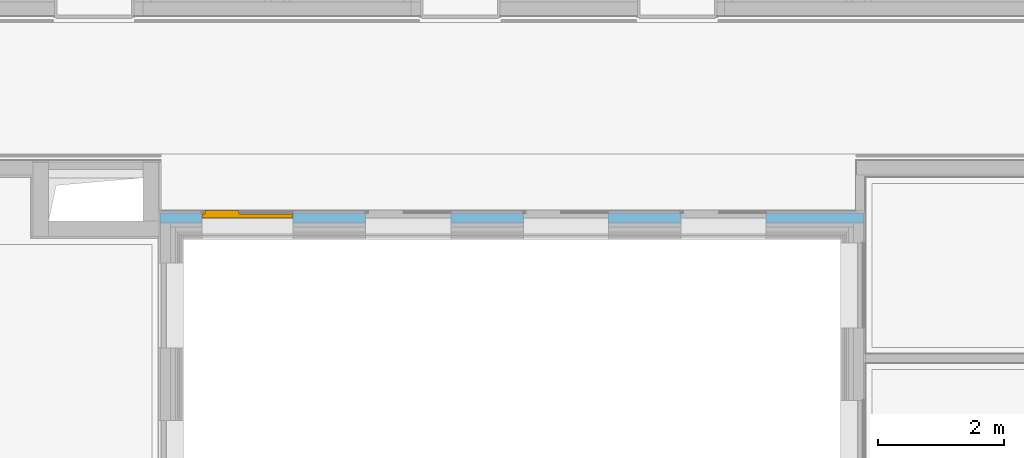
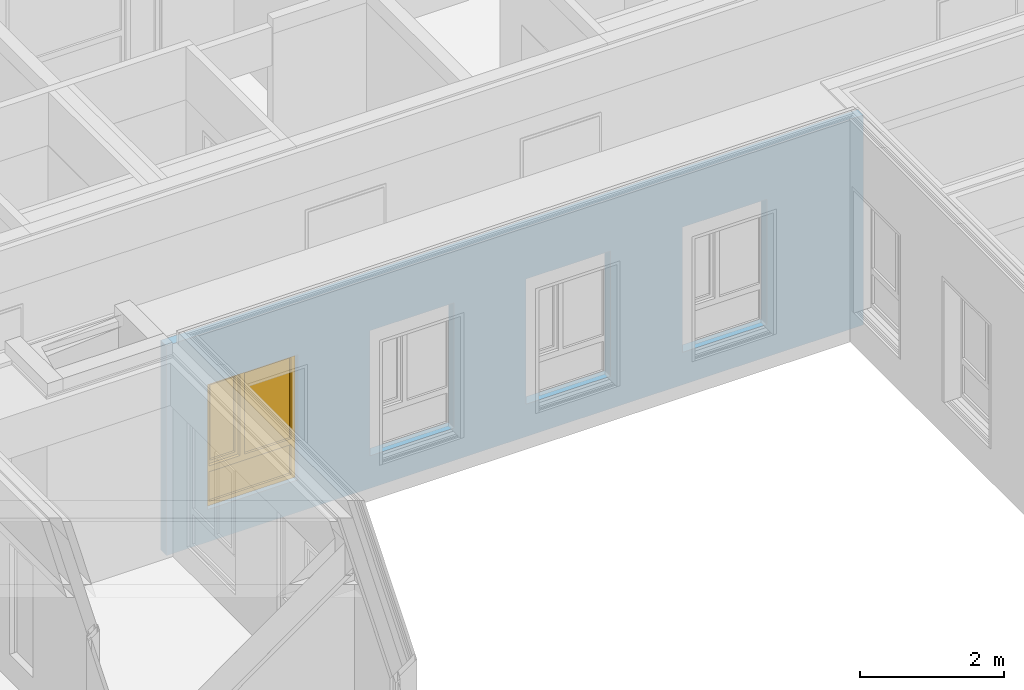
# One storey, part 130 of 222: 1 window, 4 openings, plus 1 element that does not belong to this part.
"""IFC4 building model written with IfcOpenShell, lengths in metres."""

from ifc_helpers import new_model, entity, si_unit, converted_unit, derived_unit, frame, origin, origin_with_axes, place, context, subcontext, project, spatial, polyline, outline, extrude, closed_shell, open_shell, surface_model, source, transform, mapped, material, element, fill, save


model = new_model("IFC4")

# Units and contexts
model_context = context("Model", 3, precision=1e-05, world=origin())
body_context = subcontext(model_context, "Body", "Model", "MODEL_VIEW")
ifc_project = project(units=[si_unit("LENGTHUNIT", "METRE"), si_unit("AREAUNIT", "SQUARE_METRE"), si_unit("VOLUMEUNIT", "CUBIC_METRE"), si_unit("MASSUNIT", "GRAM", prefix="KILO"), converted_unit("PLANEANGLEUNIT", "DEGREE", entity("IfcPlaneAngleMeasure", 0.0174532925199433), si_unit("PLANEANGLEUNIT", "RADIAN"), dimensions=[0, 0, 0, 0, 0, 0, 0]), derived_unit("THERMALTRANSMITTANCEUNIT", [(si_unit("POWERUNIT", "WATT"), 1), (si_unit("THERMODYNAMICTEMPERATUREUNIT", "KELVIN"), -1), (si_unit("LENGTHUNIT", "METRE"), -2)]), derived_unit("VOLUMETRICFLOWRATEUNIT", [(si_unit("LENGTHUNIT", "METRE"), 3), (converted_unit("TIMEUNIT", "hour", entity("IfcTimeMeasure", 3600.0), si_unit("TIMEUNIT", "SECOND"), dimensions=[0, 0, 1, 0, 0, 0, 0]), -1), (si_unit("LENGTHUNIT", "METRE"), -1)])], contexts=[model_context])

# Site, building, storey
site_placement = place(None, origin())
site = spatial("IfcSite", under=ifc_project, at=site_placement, Name="Psychiatrie Neubau Wunstorf", CompositionType="ELEMENT")
building_placement = place(site_placement, origin())
building = spatial("IfcBuilding", under=site, at=building_placement, Name="Neubau H2 Stationsgebäude", CompositionType="ELEMENT")
storey_placement = place(building_placement, frame((0.0, 0.0, 3.6)))
storey = spatial("IfcBuildingStorey", under=building, at=storey_placement, Name="H2 Ebene +1", CompositionType="ELEMENT", Elevation=3.6)

# Wall, openings, window
ifc_material = material(Name="WA-DL")
wall_placement = place(storey_placement, frame((90.325, 22.000006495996, 0.0), z_axis=(0.0, 0.0, 1.0), x_axis=(-0.999999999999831, -5.80725547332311e-07, 0.0)))
wall = element("IfcWall", 1, at=wall_placement, inside=storey, material=ifc_material, context=body_context, shape_type="SweptSolid", body=[
    extrude(outline(polyline([(-11.150000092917, -0.159998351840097), (-9.29151304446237e-08, -0.159998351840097), (0.0, 0.0), (-11.1499999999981, 6.47508983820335e-06), (-11.150000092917, -0.159998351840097)])), frame((11.150000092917, 0.159998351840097, 0.0), z_axis=(0.0, 0.0, 1.0), x_axis=(1.0, 0.0, 0.0)), (0.0, 0.0, 1.0), 3.55),
])
opening_1_placement = place(wall_placement, frame((7.89530009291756, 0.160000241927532, 0.55), z_axis=(-5.80725546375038e-07, -0.999999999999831, 0.0), x_axis=(0.0, 0.0, 1.0)))
element("IfcOpeningElement", 2, at=opening_1_placement, cuts=wall, Name="Fensteröffnung", ObjectType="Opening", context=body_context, shape_type="SweptSolid", body=[
    extrude(outline(polyline([(2.115, 1.35), (2.115, 0.0), (0.0, 0.0), (0.0, 1.35), (2.115, 1.35)])), origin_with_axes(), (0.0, 0.0, 1.0), 0.160000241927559),
])
opening_2_placement = place(wall_placement, frame((5.39530009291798, 0.160001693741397, 0.55), z_axis=(-5.80725546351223e-07, -0.999999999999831, 0.0), x_axis=(0.0, 0.0, 1.0)))
element("IfcOpeningElement", 3, at=opening_2_placement, cuts=wall, Name="Fensteröffnung", ObjectType="Opening", context=body_context, shape_type="SweptSolid", body=[
    extrude(outline(polyline([(2.115, 1.3500003), (2.115, 0.0), (0.0, 0.0), (0.0, 1.3500003), (2.115, 1.3500003)])), origin_with_axes(), (0.0, 0.0, 1.0), 0.160001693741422),
])
opening_3_placement = place(wall_placement, frame((2.89529979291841, 0.160003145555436, 0.55), z_axis=(-5.80725549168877e-07, -0.999999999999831, 0.0), x_axis=(0.0, 0.0, 1.0)))
element("IfcOpeningElement", 4, at=opening_3_placement, cuts=wall, Name="Fensteröffnung", ObjectType="Opening", context=body_context, shape_type="SweptSolid", body=[
    extrude(outline(polyline([(2.115, 1.3500003), (2.115, 0.0), (0.0, 0.0), (0.0, 1.3500003), (2.115, 1.3500003)])), origin_with_axes(), (0.0, 0.0, 1.0), 0.160003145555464),
])
opening_4_placement = place(wall_placement, frame((10.4953000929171, 0.159998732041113, 0.55), z_axis=(-5.80725541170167e-07, -0.999999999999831, 0.0), x_axis=(0.0, 0.0, 1.0)))
opening_4 = element("IfcOpeningElement", 5, at=opening_4_placement, cuts=wall, Name="Fensteröffnung", ObjectType="Opening", context=body_context, shape_type="SweptSolid", body=[
    extrude(outline(polyline([(2.115, 1.45), (2.115, 0.0), (0.0, 0.0), (0.0, 1.45), (2.115, 1.45)])), origin_with_axes(), (0.0, 0.0, 1.0), 0.159998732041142),
])
shared_shape = source(origin_with_axes(), body_context, "Body", "SurfaceModel", [
    surface_model("IfcShellBasedSurfaceModel", [(1.45000023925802, -4.3034327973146e-08, 2.115), (1.45000023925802, -4.3034327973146e-08, 0.0), (1.38000023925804, -8.3685117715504e-08, 0.0), (1.38000023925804, -8.3685117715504e-08, 2.115), (1.45000019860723, 0.0699999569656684, 0.0), (1.45000019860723, 0.0699999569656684, 2.115), (1.38000019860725, 0.0699999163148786, 2.115), (1.38000019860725, 0.0699999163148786, 0.0)], [closed_shell([[[0, 1, 2, 3]], [[4, 5, 6, 7]], [[1, 0, 5, 4]], [[2, 1, 4, 7]], [[3, 2, 7, 6]], [[0, 3, 6, 5]]], orient=[[False], [False], [False], [False], [False], [False]])]),
    surface_model("IfcShellBasedSurfaceModel", [(0.069999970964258, -8.44435737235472e-07, 2.115), (0.069999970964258, -8.44435737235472e-07, 0.0), (-2.90357274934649e-08, -8.8508652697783e-07, 0.0), (-2.90357274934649e-08, -8.8508652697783e-07, 2.115), (0.0699999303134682, 0.0699991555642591, 0.0), (0.0699999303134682, 0.0699991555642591, 2.115), (-6.9686517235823e-08, 0.0699991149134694, 2.115), (-6.9686517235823e-08, 0.0699991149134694, 0.0)], [closed_shell([[[0, 1, 2, 3]], [[4, 5, 6, 7]], [[1, 0, 5, 4]], [[2, 1, 4, 7]], [[3, 2, 7, 6]], [[0, 3, 6, 5]]], orient=[[False], [False], [False], [False], [False], [False]])]),
    surface_model("IfcShellBasedSurfaceModel", [(1.38000023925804, -8.3685117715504e-08, 0.07), (1.38000023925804, -8.3685117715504e-08, 0.0), (0.069999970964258, -8.44435737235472e-07, 0.0), (0.069999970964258, -8.44435737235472e-07, 0.07), (1.38000019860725, 0.0699999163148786, 0.0), (1.38000019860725, 0.0699999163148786, 0.07), (0.0699999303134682, 0.0699991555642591, 0.07), (0.0699999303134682, 0.0699991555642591, 0.0)], [closed_shell([[[0, 1, 2, 3]], [[4, 5, 6, 7]], [[1, 0, 5, 4]], [[2, 1, 4, 7]], [[3, 2, 7, 6]], [[0, 3, 6, 5]]], orient=[[False], [False], [False], [False], [False], [False]])]),
    surface_model("IfcShellBasedSurfaceModel", [(1.38000023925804, -8.3685117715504e-08, 2.115), (1.38000023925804, -8.3685117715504e-08, 2.045), (0.069999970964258, -8.44435737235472e-07, 2.045), (0.069999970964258, -8.44435737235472e-07, 2.115), (1.38000019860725, 0.0699999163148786, 2.045), (1.38000019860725, 0.0699999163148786, 2.115), (0.0699999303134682, 0.0699991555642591, 2.115), (0.0699999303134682, 0.0699991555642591, 2.045)], [closed_shell([[[0, 1, 2, 3]], [[4, 5, 6, 7]], [[1, 0, 5, 4]], [[2, 1, 4, 7]], [[3, 2, 7, 6]], [[0, 3, 6, 5]]], orient=[[False], [False], [False], [False], [False], [False]])]),
    surface_model("IfcShellBasedSurfaceModel", [(1.38000023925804, -8.3685117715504e-08, 0.67), (1.38000023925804, -8.3685117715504e-08, 0.57), (0.069999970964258, -8.44435737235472e-07, 0.57), (0.069999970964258, -8.44435737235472e-07, 0.67), (1.38000019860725, 0.0699999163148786, 0.57), (1.38000019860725, 0.0699999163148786, 0.67), (0.0699999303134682, 0.0699991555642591, 0.67), (0.0699999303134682, 0.0699991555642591, 0.57)], [closed_shell([[[0, 1, 2, 3]], [[4, 5, 6, 7]], [[1, 0, 5, 4]], [[2, 1, 4, 7]], [[3, 2, 7, 6]], [[0, 3, 6, 5]]], orient=[[False], [False], [False], [False], [False], [False]])]),
    surface_model("IfcShellBasedSurfaceModel", [(1.38000021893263, 0.0349999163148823, 0.07), (0.0699999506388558, 0.0349991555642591, 0.07), (0.0699999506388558, 0.0349991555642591, 0.57), (1.38000021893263, 0.0349999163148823, 0.57)], [open_shell([[[0, 1, 2, 3]]], orient=[[False]])]),
    surface_model("IfcShellBasedSurfaceModel", [(0.884300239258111, -3.71550770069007e-07, 2.045), (0.884300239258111, -3.71550770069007e-07, 0.67), (0.814300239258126, -4.12201559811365e-07, 0.67), (0.814300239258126, -4.12201559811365e-07, 2.045), (0.884300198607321, 0.0699996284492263, 0.67), (0.884300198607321, 0.0699996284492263, 2.045), (0.814300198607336, 0.0699995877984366, 2.045), (0.814300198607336, 0.0699995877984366, 0.67)], [closed_shell([[[0, 1, 2, 3]], [[4, 5, 6, 7]], [[1, 0, 5, 4]], [[2, 1, 4, 7]], [[3, 2, 7, 6]], [[0, 3, 6, 5]]], orient=[[False], [False], [False], [False], [False], [False]])]),
    surface_model("IfcShellBasedSurfaceModel", [(1.4000002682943, -0.0500000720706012, 2.065), (1.4000002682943, -0.0500000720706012, 0.65), (1.33000026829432, -0.0500001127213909, 0.65), (1.33000026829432, -0.0500001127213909, 2.065), (1.40000022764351, 0.0199999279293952, 0.65), (1.40000022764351, 0.0199999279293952, 2.065), (1.33000022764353, 0.0199998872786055, 2.065), (1.33000022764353, 0.0199998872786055, 0.65)], [closed_shell([[[0, 1, 2, 3]], [[4, 5, 6, 7]], [[1, 0, 5, 4]], [[2, 1, 4, 7]], [[3, 2, 7, 6]], [[0, 3, 6, 5]]], orient=[[False], [False], [False], [False], [False], [False]])]),
    surface_model("IfcShellBasedSurfaceModel", [(0.934300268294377, -0.0500003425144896, 2.065), (0.934300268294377, -0.0500003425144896, 0.65), (0.864300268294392, -0.0500003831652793, 0.65), (0.864300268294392, -0.0500003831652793, 2.065), (0.934300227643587, 0.0199996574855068, 0.65), (0.934300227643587, 0.0199996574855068, 2.065), (0.864300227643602, 0.019999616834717, 2.065), (0.864300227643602, 0.019999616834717, 0.65)], [closed_shell([[[0, 1, 2, 3]], [[4, 5, 6, 7]], [[1, 0, 5, 4]], [[2, 1, 4, 7]], [[3, 2, 7, 6]], [[0, 3, 6, 5]]], orient=[[False], [False], [False], [False], [False], [False]])]),
    surface_model("IfcShellBasedSurfaceModel", [(1.33000026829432, -0.0500001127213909, 0.72), (1.33000026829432, -0.0500001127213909, 0.65), (0.934300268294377, -0.0500003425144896, 0.65), (0.934300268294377, -0.0500003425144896, 0.72), (1.33000022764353, 0.0199998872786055, 0.65), (1.33000022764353, 0.0199998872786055, 0.72), (0.934300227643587, 0.0199996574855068, 0.72), (0.934300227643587, 0.0199996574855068, 0.65)], [closed_shell([[[0, 1, 2, 3]], [[4, 5, 6, 7]], [[1, 0, 5, 4]], [[2, 1, 4, 7]], [[3, 2, 7, 6]], [[0, 3, 6, 5]]], orient=[[False], [False], [False], [False], [False], [False]])]),
    surface_model("IfcShellBasedSurfaceModel", [(1.33000026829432, -0.0500001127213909, 2.065), (1.33000026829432, -0.0500001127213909, 1.995), (0.934300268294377, -0.0500003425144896, 1.995), (0.934300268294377, -0.0500003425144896, 2.065), (1.33000022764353, 0.0199998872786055, 1.995), (1.33000022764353, 0.0199998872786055, 2.065), (0.934300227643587, 0.0199996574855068, 2.065), (0.934300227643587, 0.0199996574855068, 1.995)], [closed_shell([[[0, 1, 2, 3]], [[4, 5, 6, 7]], [[1, 0, 5, 4]], [[2, 1, 4, 7]], [[3, 2, 7, 6]], [[0, 3, 6, 5]]], orient=[[False], [False], [False], [False], [False], [False]])]),
    surface_model("IfcShellBasedSurfaceModel", [(0.814300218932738, 0.0349995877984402, 0.67), (0.0699999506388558, 0.0349991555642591, 0.67), (0.0699999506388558, 0.0349991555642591, 2.045), (0.814300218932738, 0.0349995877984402, 2.045)], [open_shell([[[0, 1, 2, 3]]], orient=[[False]])]),
    surface_model("IfcShellBasedSurfaceModel", [(1.33000024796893, -0.0150001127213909, 0.72), (0.934300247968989, -0.0150003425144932, 0.72), (0.934300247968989, -0.0150003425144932, 1.995), (1.33000024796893, -0.0150001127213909, 1.995)], [open_shell([[[0, 1, 2, 3]]], orient=[[False]])]),
])
window_placement = place(opening_4_placement, frame((0.0, 1.45, 0.145998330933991), z_axis=(1.0, 0.0, 0.0), x_axis=(0.0, -1.0, 6.16214393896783e-15)))
window = element("IfcWindow", 6, at=window_placement, inside=storey, Name="Fenster", OverallHeight=2.115, OverallWidth=1.45, PartitioningType="USERDEFINED", PredefinedType="WINDOW", context=body_context, shape_type="MappedRepresentation", body=[
    mapped(shared_shape, transform((0.0, 0.0, 0.0), x_axis=(1.0, 0.0, 0.0), y_axis=(0.0, 1.0, 0.0), z_axis=(0.0, 0.0, 1.0), scale=1.0)),
])
fill(opening_4, window)

save(model, "model.ifc")
